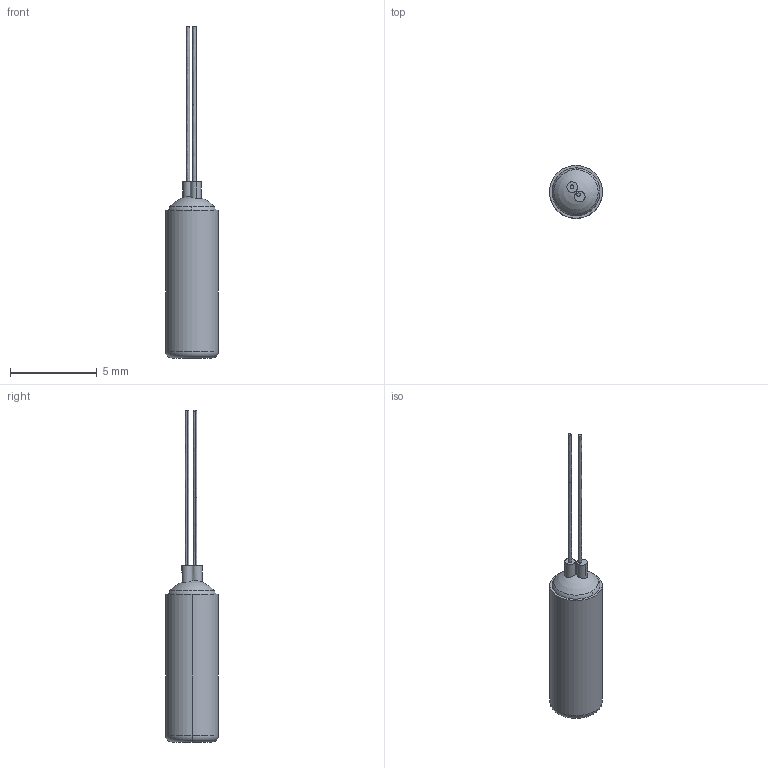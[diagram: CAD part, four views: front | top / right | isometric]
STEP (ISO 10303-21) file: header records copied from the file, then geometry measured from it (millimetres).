
FILE_DESCRIPTION (( 'STEP AP203' ), '1' );
FILE_NAME ('RX-102A-AA.STEP', '2020-05-11T15:23:56', ( '' ), ( '' ), 'SwSTEP 2.0', 'SolidWorks 2020', '' );
FILE_SCHEMA (( 'CONFIG_CONTROL_DESIGN' ));
Length unit declared in the file: millimetre
Products named in the file (1): RX-102A-AA
Bounding box: 3.05 x 3.05 x 19.15 mm (x, y, z)
Volume: 65.7 mm3; surface area: 111.3 mm2
Topology: 1 solids, 1 shells, 21 faces, 46 edges, 30 vertices
Faces by surface type: cylinder 6, plane 6, bspline 4, torus 4, sphere 1
Entity records: 789 total; most frequent: CARTESIAN_POINT 300, DIRECTION 86, ORIENTED_EDGE 80, AXIS2_PLACEMENT_3D 40, EDGE_CURVE 40, EDGE_LOOP 26, VERTEX_POINT 26, CIRCLE 22
